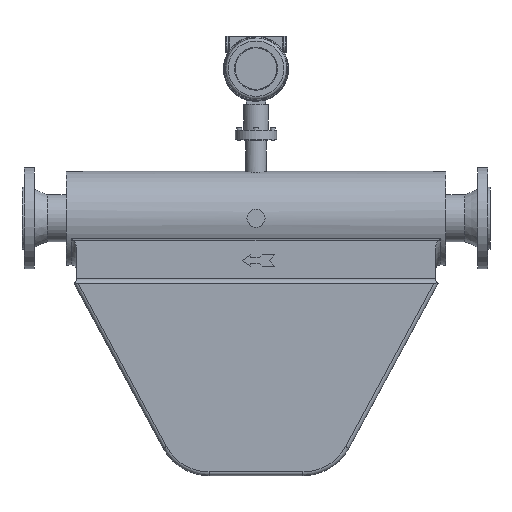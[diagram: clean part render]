
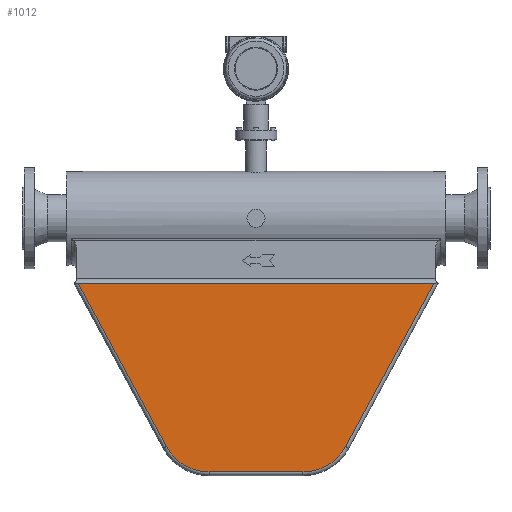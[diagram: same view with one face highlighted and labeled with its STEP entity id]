
A CAD part, top view. The second image highlights one B-rep face of the part: STEP entity #1012.
In plain terms, the highlighted planar face has unit normal (0, 0, 1).
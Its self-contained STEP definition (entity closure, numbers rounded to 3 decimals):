
#1012=ADVANCED_FACE('',(#4356),#4358,.F.);
#4356=FACE_BOUND('',#4357,.T.);
#4357=EDGE_LOOP('',(#6947,#6948,#6949,#6950,#6951,#6952));
#4358=PLANE('',#4359);
#4359=AXIS2_PLACEMENT_3D('',#4360,#4361,#4362);
#4360=CARTESIAN_POINT('',(-32.279,-325.208,985.));
#4361=DIRECTION('',(0.,0.,-1.));
#4362=DIRECTION('',(-1.,0.,0.));
#6947=ORIENTED_EDGE('',*,*,#8385,.T.);
#6948=ORIENTED_EDGE('',*,*,#8523,.T.);
#6949=ORIENTED_EDGE('',*,*,#8524,.T.);
#6950=ORIENTED_EDGE('',*,*,#8525,.T.);
#6951=ORIENTED_EDGE('',*,*,#8526,.T.);
#6952=ORIENTED_EDGE('',*,*,#8527,.T.);
#8385=EDGE_CURVE('',#9385,#9383,#9386,.T.);
#8523=EDGE_CURVE('',#9383,#9619,#9621,.T.);
#8524=EDGE_CURVE('',#9619,#9622,#9623,.T.);
#8525=EDGE_CURVE('',#9622,#9624,#9625,.T.);
#8526=EDGE_CURVE('',#9624,#9626,#9627,.T.);
#8527=EDGE_CURVE('',#9626,#9385,#9628,.T.);
#9383=VERTEX_POINT('',#12134);
#9385=VERTEX_POINT('',#12176);
#9386=LINE('',#12177,#12178);
#9619=VERTEX_POINT('',#13199);
#9621=LINE('',#13204,#13205);
#9622=VERTEX_POINT('',#13207);
#9623=CIRCLE('',#13208,93.);
#9624=VERTEX_POINT('',#13212);
#9625=LINE('',#13213,#13214);
#9626=VERTEX_POINT('',#13216);
#9627=CIRCLE('',#13217,93.);
#9628=LINE('',#13221,#13222);
#12134=CARTESIAN_POINT('',(-374.322,44.792,985.));
#12176=CARTESIAN_POINT('',(309.764,44.792,985.));
#12177=CARTESIAN_POINT('',(309.764,44.792,985.));
#12178=VECTOR('',#12179,1.);
#12179=DIRECTION('',(-1.,0.,0.));
#13199=CARTESIAN_POINT('',(-204.472,-269.432,985.));
#13204=CARTESIAN_POINT('',(-374.322,44.792,985.));
#13205=VECTOR('',#13206,1.);
#13206=DIRECTION('',(0.476,-0.88,0.));
#13207=CARTESIAN_POINT('',(-122.659,-318.208,985.));
#13208=AXIS2_PLACEMENT_3D('',#13209,#13210,#13211);
#13209=CARTESIAN_POINT('',(-122.659,-225.208,985.));
#13210=DIRECTION('',(0.,0.,1.));
#13211=DIRECTION('',(-0.88,-0.476,0.));
#13212=CARTESIAN_POINT('',(58.101,-318.208,985.));
#13213=CARTESIAN_POINT('',(-122.659,-318.208,985.));
#13214=VECTOR('',#13215,1.);
#13215=DIRECTION('',(1.,0.,0.));
#13216=CARTESIAN_POINT('',(139.913,-269.432,985.));
#13217=AXIS2_PLACEMENT_3D('',#13218,#13219,#13220);
#13218=CARTESIAN_POINT('',(58.101,-225.208,985.));
#13219=DIRECTION('',(0.,0.,1.));
#13220=DIRECTION('',(0.,-1.,0.));
#13221=CARTESIAN_POINT('',(139.913,-269.432,985.));
#13222=VECTOR('',#13223,1.);
#13223=DIRECTION('',(0.476,0.88,0.));
